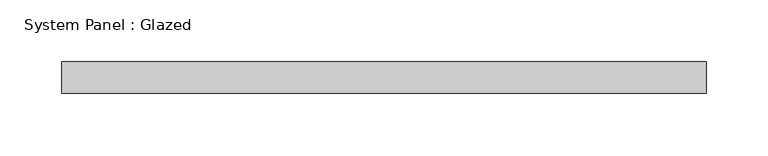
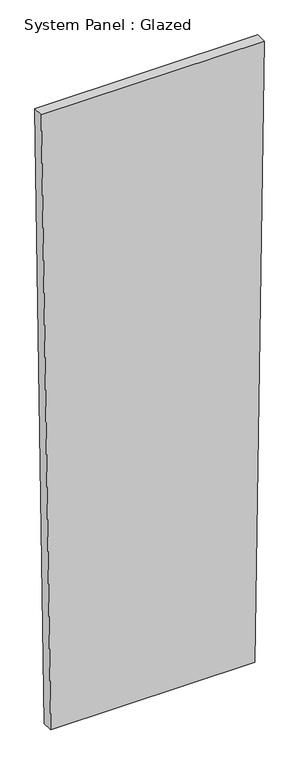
"""IFC4 building model written with IfcOpenShell, lengths in millimetres: plate geometry, System Panel : Glazed."""

from ifc_helpers import new_model, si_unit, frame, origin, place, context, project, spatial, polyline, outline, extrude, source, transform, mapped, element, save


def system_panel_glazed_3dff9bfd(model_context):
    return source(origin(), model_context, "Body", "SweptSolid", [
        extrude(outline(polyline([(0.0, -237.8357952), (0.0, 237.8357952), (1523.8417351, 259.7986329), (1523.8417351, -259.7986329), (0.0, -237.8357952)])), frame((0.0, 19.05, 0.0), z_axis=(0.0, 1.0, 0.0), x_axis=(0.0, 0.0, 1.0)), (0.0, 0.0, 1.0), 25.4),
    ])


if __name__ == "__main__":
    model = new_model("IFC4")
    model_context = context("Model", 3, world=origin())
    ifc_project = project(units=[si_unit("LENGTHUNIT", "METRE", prefix="MILLI")], contexts=[model_context])
    site = spatial("IfcSite", under=ifc_project)
    building = spatial("IfcBuilding", under=site)
    placement = place(None, origin())
    system_panel_glazed_shape = system_panel_glazed_3dff9bfd(model_context)
    element("IfcPlate", 1, ObjectType="System Panel : Glazed", at=placement, inside=building, context=model_context, shape_type="MappedRepresentation", body=[
        mapped(system_panel_glazed_shape, transform((0.0, 0.0, 0.0), x_axis=(1.0, 0.0, 0.0), y_axis=(0.0, 1.0, 0.0), z_axis=(0.0, 0.0, 1.0))),
    ])
    save(model, "model.ifc")
